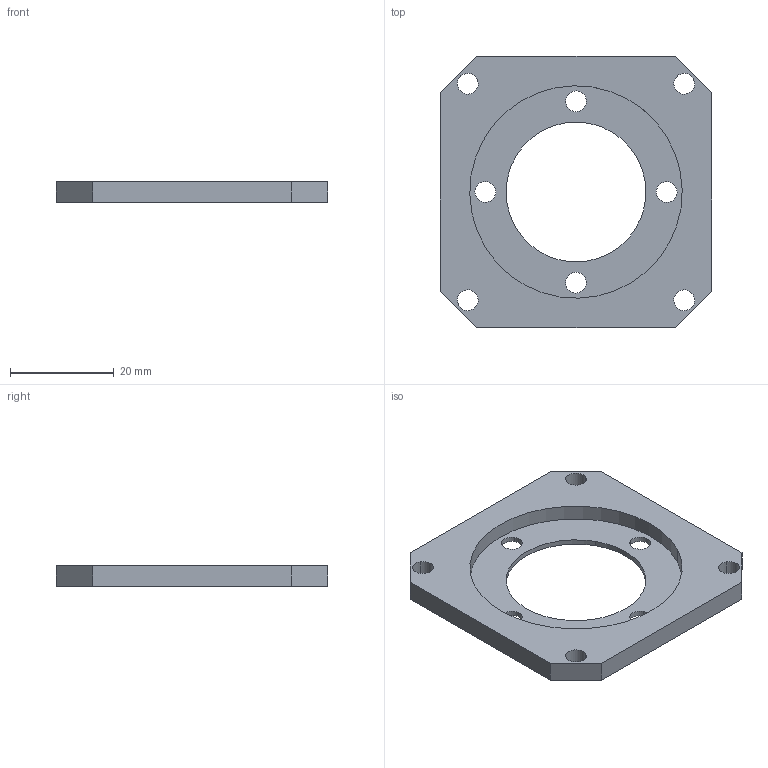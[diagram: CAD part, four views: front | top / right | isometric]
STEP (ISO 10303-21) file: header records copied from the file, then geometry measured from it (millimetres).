
FILE_DESCRIPTION(('CATIA V5 STEP Exchange'),'2;1');
FILE_NAME('C:\Users\Administrateur\Documents\Monture\Monture_voyage\Commande\Couvercle_sup.stp','2023-03-13T07:12:02+00:00',('none'),('none'),'CATIA Version 5 Release 18 GA (IN-10)','CATIA V5 STEP AP203','none');
FILE_SCHEMA(('CONFIG_CONTROL_DESIGN'));
Length unit declared in the file: millimetre
Products named in the file (1): Couvercle_sup
Bounding box: 52.3 x 52.3 x 4 mm (x, y, z)
Volume: 5764.5 mm3; surface area: 5422.2 mm2
Topology: 1 solids, 1 shells, 31 faces, 84 edges, 56 vertices
Faces by surface type: cylinder 20, plane 11
Entity records: 986 total; most frequent: ORIENTED_EDGE 168, CARTESIAN_POINT 162, DIRECTION 126, EDGE_CURVE 84, AXIS2_PLACEMENT_3D 62, VERTEX_POINT 56, EDGE_LOOP 50, VECTOR 44
